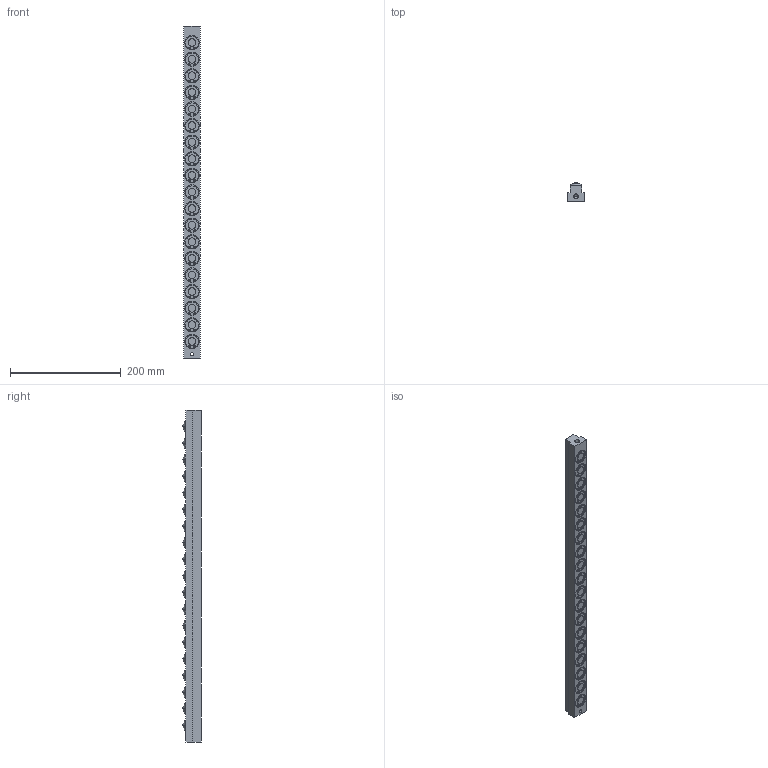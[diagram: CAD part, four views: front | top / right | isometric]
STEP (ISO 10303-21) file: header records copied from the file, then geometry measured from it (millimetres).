
FILE_DESCRIPTION (( 'STEP AP203' ), '1' );
FILE_NAME ('PVL20T-19.STEP', '2015-12-24T07:32:50', ( '' ), ( '' ), 'SwSTEP 2.0', 'SolidWorks 2013', '' );
FILE_SCHEMA (( 'CONFIG_CONTROL_DESIGN' ));
Length unit declared in the file: millimetre
Products named in the file (1): PVL20T-19
Bounding box: 30 x 34 x 600 mm (x, y, z)
Volume: 441704.6 mm3; surface area: 79803.3 mm2
Topology: 1 solids, 1 shells, 554 faces, 1325 edges, 888 vertices
Faces by surface type: cylinder 310, plane 164, torus 38, sphere 38, cone 4
Entity records: 16644 total; most frequent: DIRECTION 3285, CARTESIAN_POINT 2766, ORIENTED_EDGE 2646, AXIS2_PLACEMENT_3D 1407, EDGE_CURVE 1323, VERTEX_POINT 888, CIRCLE 852, EDGE_LOOP 673
